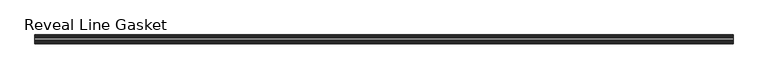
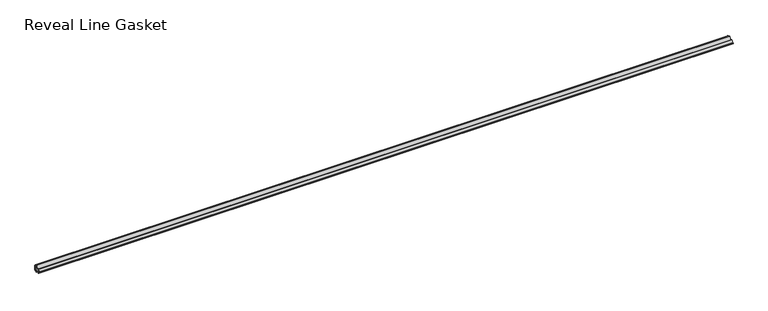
"""IFC4 building model written with IfcOpenShell, lengths in millimetres: proxy geometry, Accessories-Teknion-FHGR-AI_Healthcare-Reveal_Line_Gasket(Horizontal)-R2022 : Reveal Line Gasket."""

from ifc_helpers import new_model, si_unit, point, frame, frame_2d, origin, place, context, project, spatial, polyline, circle_curve, trimmed, segment, composite_curve, outline, extrude, source, transform, mapped, element, save


def reveal_line_gasket_9a417f64(model_context):
    return source(origin(), model_context, "Body", "SweptSolid", [
        extrude(outline(composite_curve([segment(polyline([(7.6326998, 1603.2), (7.6326998, 1597.2), (7.4091917, 1596.2445073), (6.8813059, 1595.3115316)]), True, "CONTINUOUS"), segment(trimmed(circle_curve(frame_2d((6.5243141, 1595.5135207)), 0.4101739), [point((6.8813059, 1595.3115316))], [point((6.1246704, 1595.6058653))], False, "CARTESIAN"), True, "CONTINUOUS"), segment(polyline([(6.1246704, 1595.6058653), (6.3626997, 1597.3020914), (6.3626997, 1599.3345473)]), True, "CONTINUOUS"), segment(trimmed(circle_curve(frame_2d((5.6959605, 1598.9180742)), 0.786124), [point((6.3626997, 1599.3345473))], [point((5.0926996, 1599.422125))], True, "CARTESIAN"), True, "CONTINUOUS"), segment(polyline([(5.0926996, 1599.422125), (0.7492996, 1599.422125), (3.7293824, 1594.2604705)]), True, "CONTINUOUS"), segment(trimmed(circle_curve(frame_2d((3.3132479, 1594.1950239)), 0.4212495), [point((3.7293824, 1594.2604705))], [point((3.0485022, 1593.8673642))], False, "CARTESIAN"), True, "CONTINUOUS"), segment(polyline([(3.0485022, 1593.8673642), (-0.5742594, 1599.422125), (-4.8262978, 1599.422125), (-3.1660374, 1596.5464703)]), True, "CONTINUOUS"), segment(trimmed(circle_curve(frame_2d((-3.5978728, 1596.4881145)), 0.4357605), [point((-3.1660374, 1596.5464703))], [point((-3.864328, 1596.1433119))], False, "CARTESIAN"), True, "CONTINUOUS"), segment(polyline([(-3.864328, 1596.1433119), (-6.1944059, 1599.422125), (-7.6326998, 1599.422125), (-7.6326998, 1600.977875), (-6.1944059, 1600.977875), (-3.864328, 1604.2566881)]), True, "CONTINUOUS"), segment(trimmed(circle_curve(frame_2d((-3.5978728, 1603.9118855)), 0.4357605), [point((-3.864328, 1604.2566881))], [point((-3.1660374, 1603.8535297))], False, "CARTESIAN"), True, "CONTINUOUS"), segment(polyline([(-3.1660374, 1603.8535297), (-4.8262978, 1600.977875), (-0.5742594, 1600.977875), (3.0485022, 1606.5326358)]), True, "CONTINUOUS"), segment(trimmed(circle_curve(frame_2d((3.3132479, 1606.2049761)), 0.4212495), [point((3.0485022, 1606.5326358))], [point((3.7293824, 1606.1395295))], False, "CARTESIAN"), True, "CONTINUOUS"), segment(polyline([(3.7293824, 1606.1395295), (0.7492996, 1600.977875), (5.0926996, 1600.977875)]), True, "CONTINUOUS"), segment(trimmed(circle_curve(frame_2d((5.6959605, 1601.4819258)), 0.786124), [point((5.0926996, 1600.977875))], [point((6.3626997, 1601.0654527))], True, "CARTESIAN"), True, "CONTINUOUS"), segment(polyline([(6.3626997, 1601.0654527), (6.3626997, 1603.0979086), (6.1246704, 1604.7941347)]), True, "CONTINUOUS"), segment(trimmed(circle_curve(frame_2d((6.5243141, 1604.8864793)), 0.4101739), [point((6.1246704, 1604.7941347))], [point((6.8813059, 1605.0884684))], False, "CARTESIAN"), True, "CONTINUOUS"), segment(polyline([(6.8813059, 1605.0884684), (7.4091917, 1604.1554927), (7.6326998, 1603.2)]), True, "CONTINUOUS")], self_intersect=False)), frame((-603.2666441, 0.0, 0.0), z_axis=(1.0, 0.0, 0.0), x_axis=(0.0, 1.0, 0.0)), (0.0, 0.0, 1.0), 1206.5332882),
    ])


if __name__ == "__main__":
    model = new_model("IFC4")
    model_context = context("Model", 3, world=origin())
    ifc_project = project(units=[si_unit("LENGTHUNIT", "METRE", prefix="MILLI")], contexts=[model_context])
    site = spatial("IfcSite", under=ifc_project)
    building = spatial("IfcBuilding", under=site)
    placement = place(None, origin())
    reveal_line_gasket_shape = reveal_line_gasket_9a417f64(model_context)
    element("IfcBuildingElementProxy", 1, Name="Accessories-Teknion-FHGR-AI_Healthcare-Reveal_Line_Gasket(Horizontal)-R2022 : Reveal Line Gasket", ObjectType="Accessories-Teknion-FHGR-AI_Healthcare-Reveal_Line_Gasket(Horizontal)-R2022 : Reveal Line Gasket", at=placement, inside=building, context=model_context, shape_type="MappedRepresentation", body=[
        mapped(reveal_line_gasket_shape, transform((0.0, 0.0, 0.0), x_axis=(1.0, 0.0, 0.0), y_axis=(0.0, 1.0, 0.0), z_axis=(0.0, 0.0, 1.0))),
    ])
    save(model, "model.ifc")
